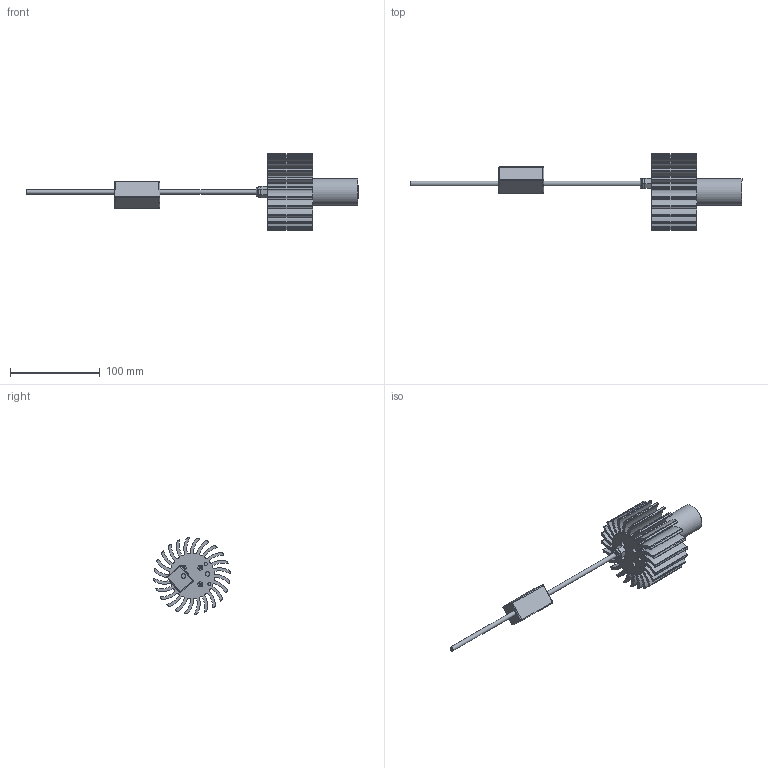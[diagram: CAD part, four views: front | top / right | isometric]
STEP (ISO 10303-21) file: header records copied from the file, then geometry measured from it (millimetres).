
FILE_DESCRIPTION (( 'STEP AP214' ), '1' );
FILE_NAME ('EFFI-LASE-PWR-CM-ZZ-YYY.STEP', '2022-03-22T08:54:14', ( '' ), ( '' ), 'SwSTEP 2.0', 'SolidWorks 2021', '' );
FILE_SCHEMA (( 'AUTOMOTIVE_DESIGN' ));
Length unit declared in the file: millimetre
Products named in the file (1): EFFI-LASE-PWR-CM-ZZ-YYY
Bounding box: 369.05 x 84.75 x 84.75 mm (x, y, z)
Surface area: 76722.8 mm2 (no closed solid volume)
Topology: 0 solids, 41 shells, 357 faces, 1189 edges, 869 vertices
Faces by surface type: cylinder 220, plane 103, bspline 23, sphere 8, torus 2, cone 1
Full cylindrical faces by diameter (mm): 3.3 x2, 5 x3, 5.5 x4, 5.55 x1, 10.351 x1, 15 x1, 30 x1
Entity records: 17127 total; most frequent: CARTESIAN_POINT 2939, DIRECTION 2180, ORIENTED_EDGE 1920, EDGE_CURVE 1162, VERTEX_POINT 866, AXIS2_PLACEMENT_3D 788, VECTOR 604, LINE 604
